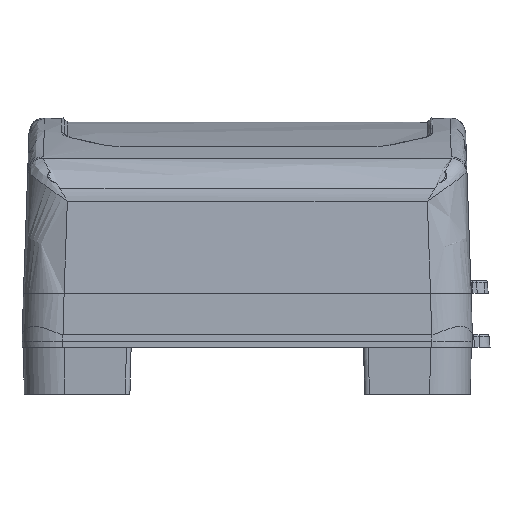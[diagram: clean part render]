
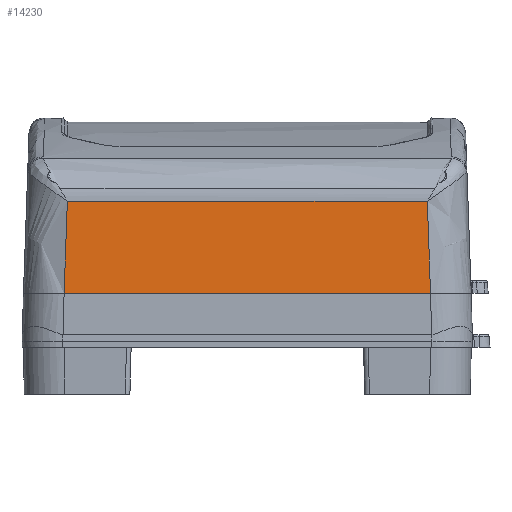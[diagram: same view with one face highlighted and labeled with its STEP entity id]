
A CAD part, left-side view. The second image highlights one B-rep face of the part: STEP entity #14230.
In plain terms, the highlighted free-form (B-spline) face has degree [1, 1] with [2, 2] control points.
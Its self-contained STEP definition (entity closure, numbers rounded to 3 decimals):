
#638 = B_SPLINE_CURVE_WITH_KNOTS ( 'NONE', 1,
 ( #14129, #3162 ),
 .UNSPECIFIED., .F., .F.,
 ( 2, 2 ),
 ( 0., 1. ),
 .UNSPECIFIED. ) ;
#2089 = CARTESIAN_POINT ( 'NONE',  ( -99., -58.508, 12.757 ) ) ;
#3162 = CARTESIAN_POINT ( 'NONE',  ( -97.974, 57.482, 42.132 ) ) ;
#3626 = VERTEX_POINT ( 'NONE', #19421 ) ;
#3931 = VERTEX_POINT ( 'NONE', #4136 ) ;
#4136 = CARTESIAN_POINT ( 'NONE',  ( -99., 58.508, 12.757 ) ) ;
#4424 = EDGE_CURVE ( 'NONE', #6812, #3931, #19725, .T. ) ;
#5935 = CARTESIAN_POINT ( 'NONE',  ( -99., 59.21, 12.757 ) ) ;
#6387 = CARTESIAN_POINT ( 'NONE',  ( -98.316, 57.824, 32.34 ) ) ;
#6422 = B_SPLINE_SURFACE_WITH_KNOTS ( 'NONE', 1, 1, ( 
 ( #20779, #17497 ),
 ( #20877, #5935 ) ),
 .UNSPECIFIED., .F., .F., .F.,
 ( 2, 2 ),
 ( 2, 2 ),
 ( 0., 1. ),
 ( 0., 1. ),
 .UNSPECIFIED. ) ;
#6435 = VERTEX_POINT ( 'NONE', #2089 ) ;
#6445 = EDGE_CURVE ( 'NONE', #6435, #3626, #9056, .T. ) ;
#6812 = VERTEX_POINT ( 'NONE', #19151 ) ;
#7587 = ORIENTED_EDGE ( 'NONE', *, *, #16193, .T. ) ;
#8400 = EDGE_LOOP ( 'NONE', ( #7587, #15921, #10358, #14660 ) ) ;
#9056 = B_SPLINE_CURVE_WITH_KNOTS ( 'NONE', 3,
 ( #19007, #15733, #17265, #10826 ),
 .UNSPECIFIED., .F., .F.,
 ( 4, 4 ),
 ( 0., 1. ),
 .UNSPECIFIED. ) ;
#10243 = B_SPLINE_CURVE_WITH_KNOTS ( 'NONE', 1,
 ( #15489, #20514 ),
 .UNSPECIFIED., .F., .F.,
 ( 2, 2 ),
 ( 0., 1. ),
 .UNSPECIFIED. ) ;
#10358 = ORIENTED_EDGE ( 'NONE', *, *, #11929, .T. ) ;
#10826 = CARTESIAN_POINT ( 'NONE',  ( -97.974, -57.482, 42.132 ) ) ;
#11289 = CARTESIAN_POINT ( 'NONE',  ( -98.658, 58.166, 22.549 ) ) ;
#11929 = EDGE_CURVE ( 'NONE', #3626, #6812, #638, .T. ) ;
#13030 = CARTESIAN_POINT ( 'NONE',  ( -99., 58.508, 12.757 ) ) ;
#14129 = CARTESIAN_POINT ( 'NONE',  ( -97.974, -57.482, 42.132 ) ) ;
#14230 = ADVANCED_FACE ( 'NONE', ( #20452 ), #6422, .T. ) ;
#14660 = ORIENTED_EDGE ( 'NONE', *, *, #4424, .T. ) ;
#15489 = CARTESIAN_POINT ( 'NONE',  ( -99., 58.508, 12.757 ) ) ;
#15733 = CARTESIAN_POINT ( 'NONE',  ( -98.658, -58.166, 22.549 ) ) ;
#15921 = ORIENTED_EDGE ( 'NONE', *, *, #6445, .T. ) ;
#16193 = EDGE_CURVE ( 'NONE', #3931, #6435, #10243, .T. ) ;
#17265 = CARTESIAN_POINT ( 'NONE',  ( -98.316, -57.824, 32.34 ) ) ;
#17497 = CARTESIAN_POINT ( 'NONE',  ( -99., -59.21, 12.757 ) ) ;
#19007 = CARTESIAN_POINT ( 'NONE',  ( -99., -58.508, 12.757 ) ) ;
#19151 = CARTESIAN_POINT ( 'NONE',  ( -97.974, 57.482, 42.132 ) ) ;
#19421 = CARTESIAN_POINT ( 'NONE',  ( -97.974, -57.482, 42.132 ) ) ;
#19725 = B_SPLINE_CURVE_WITH_KNOTS ( 'NONE', 3,
 ( #21332, #6387, #11289, #13030 ),
 .UNSPECIFIED., .F., .F.,
 ( 4, 4 ),
 ( 0., 1. ),
 .UNSPECIFIED. ) ;
#20452 = FACE_OUTER_BOUND ( 'NONE', #8400, .T. ) ;
#20514 = CARTESIAN_POINT ( 'NONE',  ( -99., -58.508, 12.757 ) ) ;
#20779 = CARTESIAN_POINT ( 'NONE',  ( -97.974, -59.21, 42.132 ) ) ;
#20877 = CARTESIAN_POINT ( 'NONE',  ( -97.974, 59.21, 42.132 ) ) ;
#21332 = CARTESIAN_POINT ( 'NONE',  ( -97.974, 57.482, 42.132 ) ) ;
